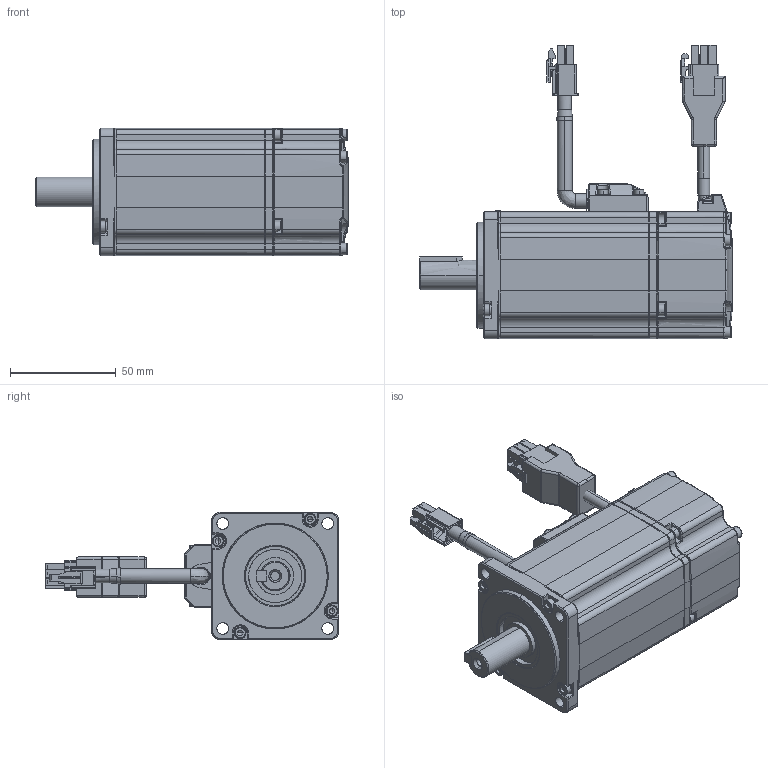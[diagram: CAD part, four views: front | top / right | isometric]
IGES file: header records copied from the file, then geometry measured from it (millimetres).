
Start section: SolidWorks IGES file using analytic representation for surfaces
Bounding box: 147.5 x 138.49 x 60 mm (x, y, z)
Surface area: 51832.7 mm2 (no closed solid volume)
Topology: 0 solids, 0 shells, 1313 faces, 9563 edges, 9562 vertices
Faces by surface type: bspline 708, revolution 605
